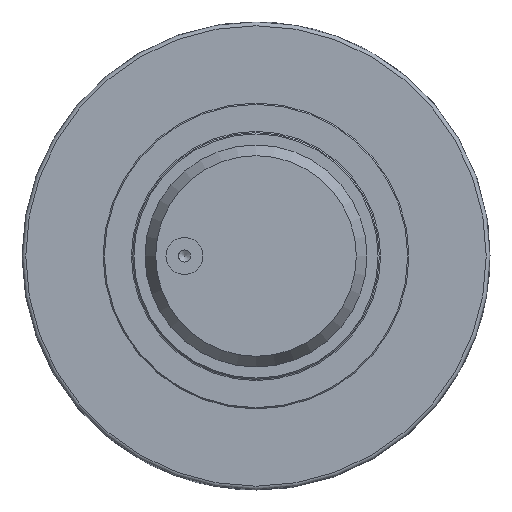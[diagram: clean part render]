
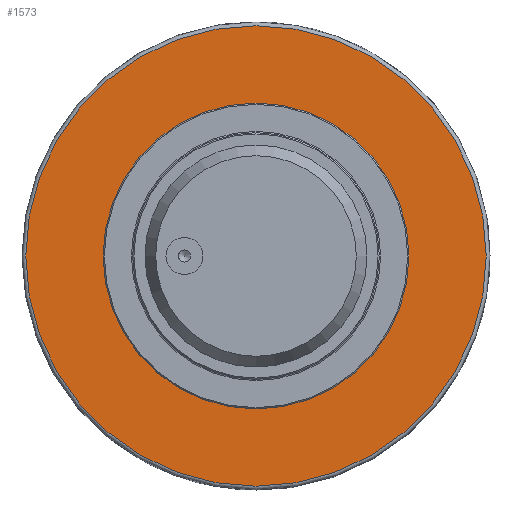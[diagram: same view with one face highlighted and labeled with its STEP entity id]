
A CAD part, left-side view. The second image highlights one B-rep face of the part: STEP entity #1573.
In plain terms, the highlighted planar face has unit normal (-1, 0, 0).
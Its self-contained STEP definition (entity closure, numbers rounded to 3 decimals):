
#55=FACE_BOUND('',#337,.T.);
#101=CIRCLE('',#1727,93.362);
#102=CIRCLE('',#1728,93.362);
#103=CIRCLE('',#1729,61.2);
#225=FACE_OUTER_BOUND('',#336,.T.);
#336=EDGE_LOOP('',(#1319,#1320));
#337=EDGE_LOOP('',(#1321));
#744=VERTEX_POINT('',#2622);
#745=VERTEX_POINT('',#2623);
#746=VERTEX_POINT('',#2626);
#947=EDGE_CURVE('',#744,#745,#101,.T.);
#948=EDGE_CURVE('',#745,#744,#102,.T.);
#949=EDGE_CURVE('',#746,#746,#103,.T.);
#1319=ORIENTED_EDGE('',*,*,#947,.F.);
#1320=ORIENTED_EDGE('',*,*,#948,.F.);
#1321=ORIENTED_EDGE('',*,*,#949,.F.);
#1498=PLANE('',#1726);
#1573=ADVANCED_FACE('',(#225,#55),#1498,.T.);
#1726=AXIS2_PLACEMENT_3D('',#2621,#2134,#2135);
#1727=AXIS2_PLACEMENT_3D('',#2624,#2136,#2137);
#1728=AXIS2_PLACEMENT_3D('',#2625,#2138,#2139);
#1729=AXIS2_PLACEMENT_3D('',#2627,#2140,#2141);
#2134=DIRECTION('center_axis',(-1.,0.,0.));
#2135=DIRECTION('ref_axis',(0.,0.5,0.866));
#2136=DIRECTION('center_axis',(1.,0.,0.));
#2137=DIRECTION('ref_axis',(0.,-0.866,0.5));
#2138=DIRECTION('center_axis',(1.,0.,0.));
#2139=DIRECTION('ref_axis',(0.,-0.866,0.5));
#2140=DIRECTION('center_axis',(-1.,0.,0.));
#2141=DIRECTION('ref_axis',(0.,-1.,0.));
#2621=CARTESIAN_POINT('Origin',(-14.864,73.679,-40.548));
#2622=CARTESIAN_POINT('',(-14.864,84.302,-46.681));
#2623=CARTESIAN_POINT('',(-14.864,50.129,80.854));
#2624=CARTESIAN_POINT('Origin',(-14.864,3.448,0.));
#2625=CARTESIAN_POINT('Origin',(-14.864,3.448,0.));
#2626=CARTESIAN_POINT('',(-14.864,64.648,0.));
#2627=CARTESIAN_POINT('Origin',(-14.864,3.448,0.));
